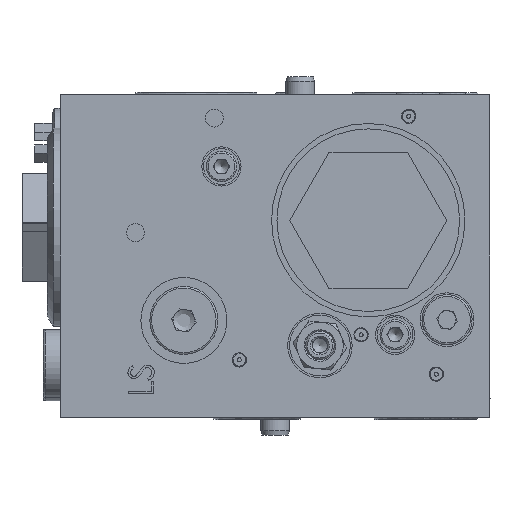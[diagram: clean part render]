
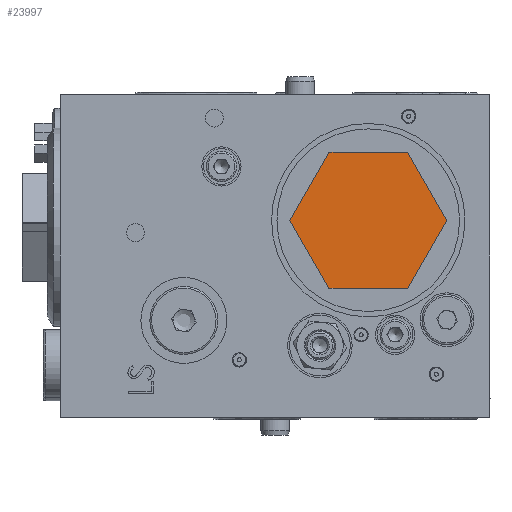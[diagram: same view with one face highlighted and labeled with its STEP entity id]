
A CAD part, left-side view. The second image highlights one B-rep face of the part: STEP entity #23997.
In plain terms, the highlighted planar face has unit normal (-1, 0, 0).
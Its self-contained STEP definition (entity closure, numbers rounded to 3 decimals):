
#296 = CARTESIAN_POINT ( 'NONE',  ( -54., -10.97, 19. ) ) ;
#456 = DIRECTION ( 'NONE',  ( 0., 0.5, -0.866 ) ) ;
#1075 = LINE ( 'NONE', #24974, #37782 ) ;
#1288 = DIRECTION ( 'NONE',  ( 0., -0.5, 0.866 ) ) ;
#2791 = CARTESIAN_POINT ( 'NONE',  ( -54., -21.939, 0. ) ) ;
#3577 = PLANE ( 'NONE',  #4598 ) ;
#4293 = EDGE_CURVE ( 'NONE', #22101, #4524, #5964, .T. ) ;
#4294 = CARTESIAN_POINT ( 'NONE',  ( -54., 21.939, 0. ) ) ;
#4524 = VERTEX_POINT ( 'NONE', #4827 ) ;
#4598 = AXIS2_PLACEMENT_3D ( 'NONE', #11187, #31749, #21469 ) ;
#4827 = CARTESIAN_POINT ( 'NONE',  ( -54., -10.97, -19. ) ) ;
#5964 = LINE ( 'NONE', #15824, #33528 ) ;
#7267 = VECTOR ( 'NONE', #28540, 1000. ) ;
#7521 = ORIENTED_EDGE ( 'NONE', *, *, #4293, .T. ) ;
#7758 = CARTESIAN_POINT ( 'NONE',  ( -54., -10.97, 19. ) ) ;
#8124 = EDGE_CURVE ( 'NONE', #23643, #18813, #27933, .T. ) ;
#9203 = VECTOR ( 'NONE', #43308, 1000. ) ;
#11187 = CARTESIAN_POINT ( 'NONE',  ( -54., 0., 0. ) ) ;
#11992 = VERTEX_POINT ( 'NONE', #296 ) ;
#13037 = ORIENTED_EDGE ( 'NONE', *, *, #21017, .T. ) ;
#13650 = CARTESIAN_POINT ( 'NONE',  ( -54., 10.97, 19. ) ) ;
#13846 = ORIENTED_EDGE ( 'NONE', *, *, #8124, .T. ) ;
#15824 = CARTESIAN_POINT ( 'NONE',  ( -54., 10.97, -19. ) ) ;
#18717 = ORIENTED_EDGE ( 'NONE', *, *, #31830, .T. ) ;
#18813 = VERTEX_POINT ( 'NONE', #27553 ) ;
#21017 = EDGE_CURVE ( 'NONE', #43642, #11992, #29612, .T. ) ;
#21469 = DIRECTION ( 'NONE',  ( 0., -1., 0. ) ) ;
#22101 = VERTEX_POINT ( 'NONE', #36838 ) ;
#23643 = VERTEX_POINT ( 'NONE', #28424 ) ;
#23997 = ADVANCED_FACE ( 'NONE', ( #24829 ), #3577, .T. ) ;
#24294 = EDGE_LOOP ( 'NONE', ( #18717, #7521, #41067, #13037, #39164, #13846 ) ) ;
#24829 = FACE_OUTER_BOUND ( 'NONE', #24294, .T. ) ;
#24974 = CARTESIAN_POINT ( 'NONE',  ( -54., -10.97, -19. ) ) ;
#26087 = EDGE_CURVE ( 'NONE', #11992, #23643, #28101, .T. ) ;
#26556 = CARTESIAN_POINT ( 'NONE',  ( -54., -21.939, 0. ) ) ;
#26568 = VECTOR ( 'NONE', #34898, 1000. ) ;
#27553 = CARTESIAN_POINT ( 'NONE',  ( -54., 21.939, 0. ) ) ;
#27933 = LINE ( 'NONE', #13650, #36352 ) ;
#28101 = LINE ( 'NONE', #7758, #7267 ) ;
#28424 = CARTESIAN_POINT ( 'NONE',  ( -54., 10.97, 19. ) ) ;
#28540 = DIRECTION ( 'NONE',  ( 0., 1., 0. ) ) ;
#29612 = LINE ( 'NONE', #2791, #9203 ) ;
#31749 = DIRECTION ( 'NONE',  ( -1., 0., 0. ) ) ;
#31830 = EDGE_CURVE ( 'NONE', #18813, #22101, #41659, .T. ) ;
#33528 = VECTOR ( 'NONE', #43785, 1000. ) ;
#34898 = DIRECTION ( 'NONE',  ( 0., -0.5, -0.866 ) ) ;
#36352 = VECTOR ( 'NONE', #456, 1000. ) ;
#36838 = CARTESIAN_POINT ( 'NONE',  ( -54., 10.97, -19. ) ) ;
#37782 = VECTOR ( 'NONE', #1288, 1000. ) ;
#39164 = ORIENTED_EDGE ( 'NONE', *, *, #26087, .T. ) ;
#41067 = ORIENTED_EDGE ( 'NONE', *, *, #43979, .T. ) ;
#41659 = LINE ( 'NONE', #4294, #26568 ) ;
#43308 = DIRECTION ( 'NONE',  ( 0., 0.5, 0.866 ) ) ;
#43642 = VERTEX_POINT ( 'NONE', #26556 ) ;
#43785 = DIRECTION ( 'NONE',  ( 0., -1., 0. ) ) ;
#43979 = EDGE_CURVE ( 'NONE', #4524, #43642, #1075, .T. ) ;
